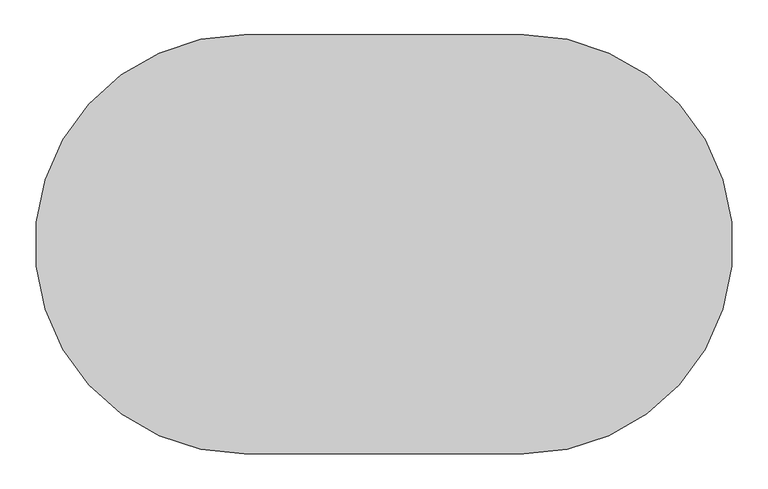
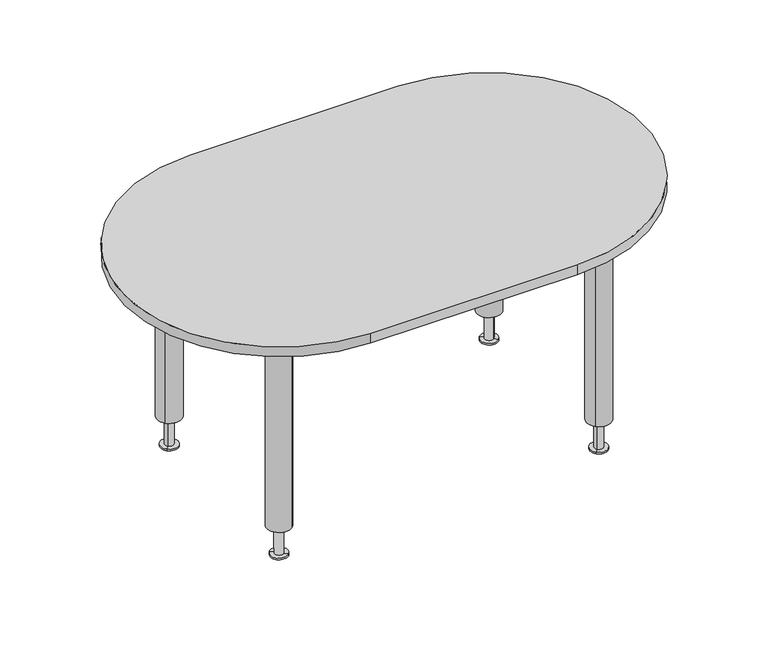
"""IFC4 building model written with IfcOpenShell, lengths in millimetres: furniture geometry, Haworth_JiveTable_RacetrackLegs : 36d 60w 29h - Post Round Base - With Glides."""

import ifcopenshell
import ifcopenshell.guid

model = None  # the IFC model being written
_history = None  # IfcOwnerHistory: only IFC2X3 demands one
_inside = {}  # id of a spatial element -> (the spatial element, [elements in it])
_under = {}  # id of a project, library or spatial element -> (it, [spatial elements below it])
_declared = {}  # id of a project -> (the project, [libraries it declares])
_typed = {}  # id of a type object -> (the type object, [elements of that type])
_made_of = {}  # id of a material, layer set ... -> (it, [elements and type objects made of it])


def new_model(schema):
    """Start an empty IFC model of exactly this schema.

    Asked for "IFC4X3", IfcOpenShell would pick the latest addendum, in which some entities
    have other attributes; the version numbers below select the first issue.
    IFC2X3 requires an IfcOwnerHistory on every rooted entity: one is made here for all.
    """
    global model, _history
    if schema == "IFC4X3":
        model = ifcopenshell.file(schema_version=(4, 3, 0, 0))
    else:
        model = ifcopenshell.file(schema=schema)
    _inside.clear()
    _under.clear()
    _declared.clear()
    _typed.clear()
    _made_of.clear()
    _history = None
    if model.schema == "IFC2X3":
        org = make("IfcOrganization", Name="unknown")
        user = make(
            "IfcPersonAndOrganization",
            ThePerson=make("IfcPerson", FamilyName="unknown"),
            TheOrganization=org,
        )
        app = make(
            "IfcApplication",
            ApplicationDeveloper=org,
            Version="unknown",
            ApplicationFullName="unknown",
            ApplicationIdentifier="unknown",
        )
        _history = make(
            "IfcOwnerHistory",
            OwningUser=user,
            OwningApplication=app,
            ChangeAction="ADDED",
            CreationDate=0,
        )
    return model


def make(cls, **values):
    """One entity of the class cls with the attributes given. An attribute that is None is left unset."""
    return model.create_entity(
        cls, **{name: value for name, value in values.items() if value is not None}
    )


def rooted(cls, **values):
    """An entity with a GlobalId (a new one), such as an element, a storey or a relation."""
    return make(cls, GlobalId=ifcopenshell.guid.new(), OwnerHistory=_history, **values)


def si_unit(unit_type, name, prefix=None):
    """IfcSIUnit, for example si_unit("LENGTHUNIT", "METRE", prefix="MILLI")."""
    return make("IfcSIUnit", UnitType=unit_type, Prefix=prefix, Name=name)


def assignment(units):
    """IfcUnitAssignment: the units of a project."""
    return None if units is None else make("IfcUnitAssignment", Units=units)


def point(xyz):
    """IfcCartesianPoint."""
    return None if xyz is None else make("IfcCartesianPoint", Coordinates=xyz)


def direction(xyz):
    """IfcDirection."""
    return None if xyz is None else make("IfcDirection", DirectionRatios=xyz)


def frame(location, z_axis=None, x_axis=None):
    """IfcAxis2Placement3D, a coordinate frame: its origin and axes. An axis left out is left unset."""
    return make(
        "IfcAxis2Placement3D",
        Location=point(location),
        Axis=direction(z_axis),
        RefDirection=direction(x_axis),
    )


def frame_2d(location, x_axis=None):
    """IfcAxis2Placement2D, a coordinate frame in the plane: its origin and x axis."""
    return make(
        "IfcAxis2Placement2D", Location=point(location), RefDirection=direction(x_axis)
    )


def origin():
    """The frame at (0, 0, 0) with its axes left unset."""
    return frame((0.0, 0.0, 0.0))


def place(relative_to, where):
    """IfcLocalPlacement: puts the frame where relative to a parent placement (None: the world)."""
    return make(
        "IfcLocalPlacement", PlacementRelTo=relative_to, RelativePlacement=where
    )


def context(
    kind, dimensions, precision=None, world=None, true_north=None, identifier=None
):
    """IfcGeometricRepresentationContext, for example the 3D "Model" context."""
    return make(
        "IfcGeometricRepresentationContext",
        ContextIdentifier=identifier,
        ContextType=kind,
        CoordinateSpaceDimension=dimensions,
        Precision=precision,
        WorldCoordinateSystem=world,
        TrueNorth=true_north,
    )


def project(units=None, contexts=None):
    """IfcProject with its units and contexts."""
    return rooted(
        "IfcProject",
        Name="project",
        RepresentationContexts=contexts,
        UnitsInContext=assignment(units),
    )


def spatial(cls, under=None, at=None, **own):
    """A site, building, storey or space (cls), placed at a placement, below another one or the project."""
    s = rooted(cls, ObjectPlacement=at, **own)
    if under is not None:
        _under.setdefault(under.id(), (under, []))[1].append(s)
    return s


def polyline(points):
    """IfcPolyline through the points."""
    return make("IfcPolyline", Points=[point(p) for p in points])


def circle_curve(where, radius):
    """IfcCircle in the frame where."""
    return make("IfcCircle", Position=where, Radius=radius)


def trimmed(basis, trim1, trim2, sense, master):
    """IfcTrimmedCurve: the piece of a basis curve between two trims."""
    return make(
        "IfcTrimmedCurve",
        BasisCurve=basis,
        Trim1=trim1,
        Trim2=trim2,
        SenseAgreement=sense,
        MasterRepresentation=master,
    )


def segment(curve, same_sense, transition):
    """IfcCompositeCurveSegment."""
    return make(
        "IfcCompositeCurveSegment",
        Transition=transition,
        SameSense=same_sense,
        ParentCurve=curve,
    )


def composite_curve(segments, self_intersect=None):
    """IfcCompositeCurve: segments joined end to end."""
    return make("IfcCompositeCurve", Segments=segments, SelfIntersect=self_intersect)


def outline(outer, holes=None, kind="AREA"):
    """IfcArbitraryClosedProfileDef: a profile drawn as a closed curve; with holes, ...WithVoids."""
    if holes is None:
        return make("IfcArbitraryClosedProfileDef", ProfileType=kind, OuterCurve=outer)
    return make(
        "IfcArbitraryProfileDefWithVoids",
        ProfileType=kind,
        OuterCurve=outer,
        InnerCurves=holes,
    )


def extrude(swept, where, along, depth):
    """IfcExtrudedAreaSolid: the profile swept, set in the frame where, extruded along a direction by depth."""
    return make(
        "IfcExtrudedAreaSolid",
        SweptArea=swept,
        Position=where,
        ExtrudedDirection=direction(along),
        Depth=depth,
    )


def shape(context_of_items, identifier, shape_type, items):
    """IfcShapeRepresentation: the items that make up one representation, for example the "Body"."""
    return make(
        "IfcShapeRepresentation",
        ContextOfItems=context_of_items,
        RepresentationIdentifier=identifier,
        RepresentationType=shape_type,
        Items=items,
    )


def source(mapping_origin, context_of_items, identifier, shape_type, items):
    """IfcRepresentationMap: a shape defined once, which mapped items show again and again."""
    return make(
        "IfcRepresentationMap",
        MappingOrigin=mapping_origin,
        MappedRepresentation=shape(context_of_items, identifier, shape_type, items),
    )


def transform(
    local_origin,
    x_axis=None,
    y_axis=None,
    z_axis=None,
    scale=None,
    scale2=None,
    scale3=None,
    uniform=True,
):
    """IfcCartesianTransformationOperator3D, or its non-uniform kind. x_axis, y_axis, z_axis: its Axis1, 2, 3."""
    if uniform:
        return make(
            "IfcCartesianTransformationOperator3D",
            Axis1=direction(x_axis),
            Axis2=direction(y_axis),
            LocalOrigin=point(local_origin),
            Scale=scale,
            Axis3=direction(z_axis),
        )
    return make(
        "IfcCartesianTransformationOperator3DnonUniform",
        Axis1=direction(x_axis),
        Axis2=direction(y_axis),
        LocalOrigin=point(local_origin),
        Scale=scale,
        Axis3=direction(z_axis),
        Scale2=scale2,
        Scale3=scale3,
    )


def mapped(mapping_source, mapping_target):
    """IfcMappedItem: shows the shape of a source again, moved by a transform."""
    return make(
        "IfcMappedItem", MappingSource=mapping_source, MappingTarget=mapping_target
    )


def made_of(thing, what):
    """Note that an element or type object is made of a material, layer set ...; save() writes the relation."""
    if what is not None:
        _made_of.setdefault(what.id(), (what, []))[1].append(thing)
    return thing


def element(
    cls,
    number,
    at=None,
    inside=None,
    cuts=None,
    type_object=None,
    material=None,
    context=None,
    identifier="Body",
    shape_type=None,
    held_by="IfcProductDefinitionShape",
    body=None,
    shapes=None,
    **own,
):
    """One element of the class cls, such as IfcWall. Its Tag is "e" and its number.

    at: its placement. inside: the storey or other place that contains it. cuts: it is an
    opening in that element (IfcRelVoidsElement). A single representation is given by context,
    identifier, shape_type and body (its items); several are given by shapes. held_by: the class
    of the entity that holds the representations. save() writes the other relations.
    """
    e = rooted(cls, Tag="e%d" % number, ObjectPlacement=at, **own)
    if body is not None:
        shapes = [shape(context, identifier, shape_type, body)]
    if shapes is not None:
        e.Representation = make(held_by, Representations=shapes)
    if inside is not None:
        _inside.setdefault(inside.id(), (inside, []))[1].append(e)
    if cuts is not None:
        rooted(
            "IfcRelVoidsElement", RelatingBuildingElement=cuts, RelatedOpeningElement=e
        )
    if type_object is not None:
        _typed.setdefault(type_object.id(), (type_object, []))[1].append(e)
    return made_of(e, material)


def aggregate(whole, parts):
    """IfcRelAggregates: a whole, such as a stair, and the parts it consists of."""
    return rooted("IfcRelAggregates", RelatingObject=whole, RelatedObjects=parts)


def save(model, path):
    """Write the relations noted so far, then the file.

    IfcRelAggregates (storeys below a building ...), IfcRelContainedInSpatialStructure (elements
    in a storey), IfcRelDefinesByType, IfcRelAssociatesMaterial and IfcRelDeclares: one each for
    every whole, place, type object, material and project.
    """
    for whole, parts in _under.values():
        aggregate(whole, parts)
    for where, things in _inside.values():
        rooted(
            "IfcRelContainedInSpatialStructure",
            RelatedElements=things,
            RelatingStructure=where,
        )
    for kind, things in _typed.values():
        rooted("IfcRelDefinesByType", RelatedObjects=things, RelatingType=kind)
    for what, things in _made_of.values():
        rooted("IfcRelAssociatesMaterial", RelatedObjects=things, RelatingMaterial=what)
    for by, libraries in _declared.values():
        rooted("IfcRelDeclares", RelatingContext=by, RelatedDefinitions=libraries)
    model.write(path)


def plane_surface(at):
    """IfcPlane: the flat surface through the origin of the frame at, square to its z axis."""
    return make("IfcPlane", Position=at)


def cylinder_surface(at, radius):
    """IfcCylindricalSurface: all points at the distance radius from the z axis of the frame at."""
    return make("IfcCylindricalSurface", Position=at, Radius=radius)


def advanced_brep(points, edges, surfaces, faces):
    """IfcAdvancedBrep: a solid bounded by faces that lie on surfaces and meet in shared edges.

    An edge is (start, end): straight between two places in points (the first is 0);
    or (start, end, curve); or (start, end, curve, False) where it runs against its curve.
    A face is (place in surfaces, loops), or (place, loops, False) where it looks against
    its surface's normal. A loop lists edges by number (the first is 1), with a minus sign
    where the edge is run from its end to its start. The first loop is the outer one.
    """
    corners = [point(p) for p in points]
    vertices = [make("IfcVertexPoint", VertexGeometry=c) for c in corners]
    made = []
    for start, end, *more in edges:
        made.append(
            make(
                "IfcEdgeCurve",
                EdgeStart=vertices[start],
                EdgeEnd=vertices[end],
                EdgeGeometry=more[0] if more else make("IfcPolyline", Points=[corners[start], corners[end]]),
                SameSense=more[1] if len(more) > 1 else True,
            )
        )
    hull = []
    for where, loops, *sense in faces:
        bounds = []
        for j, loop in enumerate(loops):
            ring = [make("IfcOrientedEdge", EdgeElement=made[abs(k) - 1], Orientation=k > 0) for k in loop]
            bounds.append(
                make(
                    "IfcFaceOuterBound" if j == 0 else "IfcFaceBound",
                    Bound=make("IfcEdgeLoop", EdgeList=ring),
                    Orientation=True,
                )
            )
        hull.append(make("IfcAdvancedFace", Bounds=bounds, FaceSurface=surfaces[where], SameSense=sense[0] if sense else True))
    return make("IfcAdvancedBrep", Outer=make("IfcClosedShell", CfsFaces=hull))


def furniture_38547229(model_context):
    return source(origin(), model_context, "Body", "SolidModel", [
        extrude(outline(composite_curve([segment(trimmed(circle_curve(frame_2d((-511.7197439, 321.2197439)), 8.9802561), [point((-520.7, 321.2197439))], [point((-511.7197439, 330.2))], False, "CARTESIAN"), True, "CONTINUOUS"), segment(polyline([(-511.7197439, 330.2), (-428.0802561, 330.2)]), True, "CONTINUOUS"), segment(trimmed(circle_curve(frame_2d((-428.0802561, 321.2197439)), 8.9802561), [point((-428.0802561, 330.2))], [point((-419.1, 321.2197439))], False, "CARTESIAN"), True, "CONTINUOUS"), segment(polyline([(-419.1, 321.2197439), (-419.1, 237.5802561)]), True, "CONTINUOUS"), segment(trimmed(circle_curve(frame_2d((-428.0802561, 237.5802561)), 8.9802561), [point((-419.1, 237.5802561))], [point((-428.0802561, 228.6))], False, "CARTESIAN"), True, "CONTINUOUS"), segment(polyline([(-428.0802561, 228.6), (-511.7197439, 228.6)]), True, "CONTINUOUS"), segment(trimmed(circle_curve(frame_2d((-511.7197439, 237.5802561)), 8.9802561), [point((-511.7197439, 228.6))], [point((-520.7, 237.5802561))], False, "CARTESIAN"), True, "CONTINUOUS"), segment(polyline([(-520.7, 237.5802561), (-520.7, 321.2197439)]), True, "CONTINUOUS")], self_intersect=False)), frame((0.0, 0.0, 700.0875), z_axis=(0.0, 0.0, 1.0), x_axis=(1.0, 0.0, 0.0)), (0.0, 0.0, 1.0), 6.35),
        extrude(outline(composite_curve([segment(trimmed(circle_curve(frame_2d((-470.134324, 279.634324)), 35.56), [point((-444.9896069, 304.7790412))], [point((-495.2790412, 254.4896069))], False, "CARTESIAN"), True, "CONTINUOUS"), segment(trimmed(circle_curve(frame_2d((-470.134324, 279.634324)), 35.56), [point((-495.2790412, 254.4896069))], [point((-444.9896069, 304.7790412))], False, "CARTESIAN"), True, "CONTINUOUS")], self_intersect=False)), frame((0.0, 0.0, 92.075), z_axis=(0.0, 0.0, 1.0), x_axis=(1.0, 0.0, 0.0)), (0.0, 0.0, 1.0), 608.0125),
        advanced_brep(
        [(-478.9414411, 270.3585589, 92.075), (-469.961185, 279.338815, 92.075), (-460.9809289, 288.3190711, 92.075), (-469.961185, 279.338815, 0.0), (-487.9216972, 261.3783028, 0.0), (-452.0006728, 297.2993272, 0.0), (-487.9216972, 261.3783028, 4.7625), (-452.0006728, 297.2993272, 4.7625), (-478.9414411, 270.3585589, 4.7625), (-460.9809289, 288.3190711, 4.7625)],
        [
            (0, 1),
            (1, 2),
            (2, 0, circle_curve(frame((-469.961185, 279.338815, 92.075), z_axis=(0.0, 0.0, 1.0), x_axis=(0.7071067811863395, 0.7071067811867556, 0.0)), 12.7)),
            (0, 2, circle_curve(frame((-469.961185, 279.338815, 92.075), z_axis=(0.0, 0.0, 1.0), x_axis=(0.7071067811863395, 0.7071067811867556, 0.0)), 12.7)),
            (3, 4),
            (4, 5, circle_curve(frame((-469.961185, 279.338815, 0.0), z_axis=(0.0, 0.0, -1.0), x_axis=(0.7071067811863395, 0.7071067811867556, 0.0)), 25.4)),
            (5, 3),
            (5, 4, circle_curve(frame((-469.961185, 279.338815, 0.0), z_axis=(0.0, 0.0, -1.0), x_axis=(0.7071067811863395, 0.7071067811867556, 0.0)), 25.4)),
            (4, 6),
            (6, 7, circle_curve(frame((-469.961185, 279.338815, 4.7625), z_axis=(0.0, 0.0, -1.0), x_axis=(0.7071067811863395, 0.7071067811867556, 0.0)), 25.4)),
            (7, 5),
            (7, 6, circle_curve(frame((-469.961185, 279.338815, 4.7625), z_axis=(0.0, 0.0, -1.0), x_axis=(0.7071067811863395, 0.7071067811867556, 0.0)), 25.4)),
            (6, 8),
            (8, 9, circle_curve(frame((-469.961185, 279.338815, 4.7625), z_axis=(0.0, 0.0, -1.0), x_axis=(0.7071067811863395, 0.7071067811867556, 0.0)), 12.7)),
            (9, 7),
            (9, 8, circle_curve(frame((-469.961185, 279.338815, 4.7625), z_axis=(0.0, 0.0, -1.0), x_axis=(0.7071067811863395, 0.7071067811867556, 0.0)), 12.7)),
            (8, 0),
            (2, 9),
        ],
        [
            plane_surface(frame((-469.961185, 279.338815, 92.075), z_axis=(0.0, 0.0, 1.0000000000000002), x_axis=(0.7071067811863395, 0.7071067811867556, 0.0))),
            plane_surface(frame((-469.961185, 279.338815, 0.0), z_axis=(0.0, 0.0, -1.0000000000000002), x_axis=(0.7071067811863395, 0.7071067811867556, 0.0))),
            cylinder_surface(frame((-469.961185, 279.338815, 106.1427212), z_axis=(0.0, 0.0, -1.0), x_axis=(0.7071067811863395, 0.7071067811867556, 0.0)), 25.4),
            plane_surface(frame((-469.961185, 279.338815, 4.7625), z_axis=(0.0, 0.0, 1.0000000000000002), x_axis=(0.7071067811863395, 0.7071067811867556, 0.0))),
            cylinder_surface(frame((-469.961185, 279.338815, 106.1427212), z_axis=(0.0, 0.0, -1.0), x_axis=(0.7071067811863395, 0.7071067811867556, 0.0)), 12.7),
        ],
        [
            (0, [[1, 2, 3]]),
            (0, [[-2, -1, 4]]),
            (1, [[5, 6, 7]]),
            (1, [[-7, 8, -5]]),
            (2, [[9, 10, 11, -6]]),
            (2, [[-11, 12, -9, -8]]),
            (3, [[13, 14, 15, -10]]),
            (3, [[-15, 16, -13, -12]]),
            (4, [[17, -3, 18, -14]]),
            (4, [[-18, -4, -17, -16]]),
        ],
    ),
        extrude(outline(composite_curve([segment(polyline([(-520.7, -321.2197439), (-520.7, -237.5802561)]), True, "CONTINUOUS"), segment(trimmed(circle_curve(frame_2d((-511.7197439, -237.5802561)), 8.9802561), [point((-520.7, -237.5802561))], [point((-511.7197439, -228.6))], False, "CARTESIAN"), True, "CONTINUOUS"), segment(polyline([(-511.7197439, -228.6), (-428.0802561, -228.6)]), True, "CONTINUOUS"), segment(trimmed(circle_curve(frame_2d((-428.0802561, -237.5802561)), 8.9802561), [point((-428.0802561, -228.6))], [point((-419.1, -237.5802561))], False, "CARTESIAN"), True, "CONTINUOUS"), segment(polyline([(-419.1, -237.5802561), (-419.1, -321.2197439)]), True, "CONTINUOUS"), segment(trimmed(circle_curve(frame_2d((-428.0802561, -321.2197439)), 8.9802561), [point((-419.1, -321.2197439))], [point((-428.0802561, -330.2))], False, "CARTESIAN"), True, "CONTINUOUS"), segment(polyline([(-428.0802561, -330.2), (-511.7197439, -330.2)]), True, "CONTINUOUS"), segment(trimmed(circle_curve(frame_2d((-511.7197439, -321.2197439)), 8.9802561), [point((-511.7197439, -330.2))], [point((-520.7, -321.2197439))], False, "CARTESIAN"), True, "CONTINUOUS")], self_intersect=False)), frame((0.0, 0.0, 700.0875), z_axis=(0.0, 0.0, 1.0), x_axis=(1.0, 0.0, 0.0)), (0.0, 0.0, 1.0), 6.35),
        extrude(outline(composite_curve([segment(trimmed(circle_curve(frame_2d((-470.134324, -279.634324)), 35.56), [point((-444.9896069, -304.7790412))], [point((-495.2790412, -254.4896069))], False, "CARTESIAN"), True, "CONTINUOUS"), segment(trimmed(circle_curve(frame_2d((-470.134324, -279.634324)), 35.56), [point((-495.2790412, -254.4896069))], [point((-444.9896069, -304.7790412))], False, "CARTESIAN"), True, "CONTINUOUS")], self_intersect=False)), frame((0.0, 0.0, 92.075), z_axis=(0.0, 0.0, 1.0), x_axis=(1.0, 0.0, 0.0)), (0.0, 0.0, 1.0), 608.0125),
        advanced_brep(
        [(-478.9414411, -270.3585589, 92.075), (-460.9809289, -288.3190711, 92.075), (-469.961185, -279.338815, 92.075), (-469.961185, -279.338815, 0.0), (-452.0006728, -297.2993272, 0.0), (-487.9216972, -261.3783028, 0.0), (-452.0006728, -297.2993272, 4.7625), (-487.9216972, -261.3783028, 4.7625), (-460.9809289, -288.3190711, 4.7625), (-478.9414411, -270.3585589, 4.7625)],
        [
            (0, 1, circle_curve(frame((-469.961185, -279.338815, 92.075), z_axis=(0.0, 0.0, 1.0), x_axis=(0.7071067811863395, -0.7071067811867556, 0.0)), 12.7)),
            (1, 2),
            (2, 0),
            (1, 0, circle_curve(frame((-469.961185, -279.338815, 92.075), z_axis=(0.0, 0.0, 1.0), x_axis=(0.7071067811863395, -0.7071067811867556, 0.0)), 12.7)),
            (3, 4),
            (4, 5, circle_curve(frame((-469.961185, -279.338815, 0.0), z_axis=(0.0, 0.0, -1.0), x_axis=(0.7071067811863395, -0.7071067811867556, 0.0)), 25.4)),
            (5, 3),
            (5, 4, circle_curve(frame((-469.961185, -279.338815, 0.0), z_axis=(0.0, 0.0, -1.0), x_axis=(0.7071067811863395, -0.7071067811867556, 0.0)), 25.4)),
            (4, 6),
            (6, 7, circle_curve(frame((-469.961185, -279.338815, 4.7625), z_axis=(0.0, 0.0, -1.0), x_axis=(0.7071067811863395, -0.7071067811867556, 0.0)), 25.4)),
            (7, 5),
            (7, 6, circle_curve(frame((-469.961185, -279.338815, 4.7625), z_axis=(0.0, 0.0, -1.0), x_axis=(0.7071067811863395, -0.7071067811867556, 0.0)), 25.4)),
            (6, 8),
            (8, 9, circle_curve(frame((-469.961185, -279.338815, 4.7625), z_axis=(0.0, 0.0, -1.0), x_axis=(0.7071067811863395, -0.7071067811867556, 0.0)), 12.7)),
            (9, 7),
            (9, 8, circle_curve(frame((-469.961185, -279.338815, 4.7625), z_axis=(0.0, 0.0, -1.0), x_axis=(0.7071067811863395, -0.7071067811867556, 0.0)), 12.7)),
            (8, 1),
            (0, 9),
        ],
        [
            plane_surface(frame((-469.961185, -279.338815, 92.075), z_axis=(0.0, 0.0, 1.0000000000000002), x_axis=(0.7071067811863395, -0.7071067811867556, 0.0))),
            plane_surface(frame((-469.961185, -279.338815, 0.0), z_axis=(0.0, 0.0, -1.0000000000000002), x_axis=(0.7071067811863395, -0.7071067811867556, 0.0))),
            cylinder_surface(frame((-469.961185, -279.338815, 106.1427212), z_axis=(0.0, 0.0, -1.0), x_axis=(0.7071067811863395, -0.7071067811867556, 0.0)), 25.4),
            plane_surface(frame((-469.961185, -279.338815, 4.7625), z_axis=(0.0, 0.0, 1.0000000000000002), x_axis=(0.7071067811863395, -0.7071067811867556, 0.0))),
            cylinder_surface(frame((-469.961185, -279.338815, 106.1427212), z_axis=(0.0, 0.0, -1.0), x_axis=(0.7071067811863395, -0.7071067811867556, 0.0)), 12.7),
        ],
        [
            (0, [[1, 2, 3]]),
            (0, [[4, -3, -2]]),
            (1, [[5, 6, 7]]),
            (1, [[-7, 8, -5]]),
            (2, [[-6, 9, 10, 11]]),
            (2, [[-8, -11, 12, -9]]),
            (3, [[-10, 13, 14, 15]]),
            (3, [[-12, -15, 16, -13]]),
            (4, [[-14, 17, -1, 18]]),
            (4, [[-16, -18, -4, -17]]),
        ],
    ),
        extrude(outline(composite_curve([segment(polyline([(520.7, 321.2197439), (520.7, 237.5802561)]), True, "CONTINUOUS"), segment(trimmed(circle_curve(frame_2d((511.7197439, 237.5802561)), 8.9802561), [point((520.7, 237.5802561))], [point((511.7197439, 228.6))], False, "CARTESIAN"), True, "CONTINUOUS"), segment(polyline([(511.7197439, 228.6), (428.0802561, 228.6)]), True, "CONTINUOUS"), segment(trimmed(circle_curve(frame_2d((428.0802561, 237.5802561)), 8.9802561), [point((428.0802561, 228.6))], [point((419.1, 237.5802561))], False, "CARTESIAN"), True, "CONTINUOUS"), segment(polyline([(419.1, 237.5802561), (419.1, 321.2197439)]), True, "CONTINUOUS"), segment(trimmed(circle_curve(frame_2d((428.0802561, 321.2197439)), 8.9802561), [point((419.1, 321.2197439))], [point((428.0802561, 330.2))], False, "CARTESIAN"), True, "CONTINUOUS"), segment(polyline([(428.0802561, 330.2), (511.7197439, 330.2)]), True, "CONTINUOUS"), segment(trimmed(circle_curve(frame_2d((511.7197439, 321.2197439)), 8.9802561), [point((511.7197439, 330.2))], [point((520.7, 321.2197439))], False, "CARTESIAN"), True, "CONTINUOUS")], self_intersect=False)), frame((0.0, 0.0, 700.0875), z_axis=(0.0, 0.0, 1.0), x_axis=(1.0, 0.0, 0.0)), (0.0, 0.0, 1.0), 6.35),
        extrude(outline(composite_curve([segment(trimmed(circle_curve(frame_2d((470.134324, 279.634324)), 35.56), [point((444.9896069, 304.7790412))], [point((495.2790412, 254.4896069))], False, "CARTESIAN"), True, "CONTINUOUS"), segment(trimmed(circle_curve(frame_2d((470.134324, 279.634324)), 35.56), [point((495.2790412, 254.4896069))], [point((444.9896069, 304.7790412))], False, "CARTESIAN"), True, "CONTINUOUS")], self_intersect=False)), frame((0.0, 0.0, 92.075), z_axis=(0.0, 0.0, 1.0), x_axis=(1.0, 0.0, 0.0)), (0.0, 0.0, 1.0), 608.0125),
        advanced_brep(
        [(478.9414411, 270.3585589, 92.075), (460.9809289, 288.3190711, 92.075), (469.961185, 279.338815, 92.075), (469.961185, 279.338815, 0.0), (452.0006728, 297.2993272, 0.0), (487.9216972, 261.3783028, 0.0), (452.0006728, 297.2993272, 4.7625), (487.9216972, 261.3783028, 4.7625), (460.9809289, 288.3190711, 4.7625), (478.9414411, 270.3585589, 4.7625)],
        [
            (0, 1, circle_curve(frame((469.961185, 279.338815, 92.075), z_axis=(0.0, 0.0, 1.0), x_axis=(-0.7071067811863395, 0.7071067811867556, 0.0)), 12.7)),
            (1, 2),
            (2, 0),
            (1, 0, circle_curve(frame((469.961185, 279.338815, 92.075), z_axis=(0.0, 0.0, 1.0), x_axis=(-0.7071067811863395, 0.7071067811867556, 0.0)), 12.7)),
            (3, 4),
            (4, 5, circle_curve(frame((469.961185, 279.338815, 0.0), z_axis=(0.0, 0.0, -1.0), x_axis=(-0.7071067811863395, 0.7071067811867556, 0.0)), 25.4)),
            (5, 3),
            (5, 4, circle_curve(frame((469.961185, 279.338815, 0.0), z_axis=(0.0, 0.0, -1.0), x_axis=(-0.7071067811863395, 0.7071067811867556, 0.0)), 25.4)),
            (4, 6),
            (6, 7, circle_curve(frame((469.961185, 279.338815, 4.7625), z_axis=(0.0, 0.0, -1.0), x_axis=(-0.7071067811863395, 0.7071067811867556, 0.0)), 25.4)),
            (7, 5),
            (7, 6, circle_curve(frame((469.961185, 279.338815, 4.7625), z_axis=(0.0, 0.0, -1.0), x_axis=(-0.7071067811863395, 0.7071067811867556, 0.0)), 25.4)),
            (6, 8),
            (8, 9, circle_curve(frame((469.961185, 279.338815, 4.7625), z_axis=(0.0, 0.0, -1.0), x_axis=(-0.7071067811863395, 0.7071067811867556, 0.0)), 12.7)),
            (9, 7),
            (9, 8, circle_curve(frame((469.961185, 279.338815, 4.7625), z_axis=(0.0, 0.0, -1.0), x_axis=(-0.7071067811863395, 0.7071067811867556, 0.0)), 12.7)),
            (8, 1),
            (0, 9),
        ],
        [
            plane_surface(frame((469.961185, 279.338815, 92.075), z_axis=(0.0, 0.0, 1.0000000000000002), x_axis=(-0.7071067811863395, 0.7071067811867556, 0.0))),
            plane_surface(frame((469.961185, 279.338815, 0.0), z_axis=(0.0, 0.0, -1.0000000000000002), x_axis=(-0.7071067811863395, 0.7071067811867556, 0.0))),
            cylinder_surface(frame((469.961185, 279.338815, 106.1427212), z_axis=(0.0, 0.0, -1.0), x_axis=(-0.7071067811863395, 0.7071067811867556, 0.0)), 25.4),
            plane_surface(frame((469.961185, 279.338815, 4.7625), z_axis=(0.0, 0.0, 1.0000000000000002), x_axis=(-0.7071067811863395, 0.7071067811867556, 0.0))),
            cylinder_surface(frame((469.961185, 279.338815, 106.1427212), z_axis=(0.0, 0.0, -1.0), x_axis=(-0.7071067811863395, 0.7071067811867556, 0.0)), 12.7),
        ],
        [
            (0, [[1, 2, 3]]),
            (0, [[4, -3, -2]]),
            (1, [[5, 6, 7]]),
            (1, [[-7, 8, -5]]),
            (2, [[-6, 9, 10, 11]]),
            (2, [[-8, -11, 12, -9]]),
            (3, [[-10, 13, 14, 15]]),
            (3, [[-12, -15, 16, -13]]),
            (4, [[-14, 17, -1, 18]]),
            (4, [[-16, -18, -4, -17]]),
        ],
    ),
        extrude(outline(composite_curve([segment(trimmed(circle_curve(frame_2d((511.7197439, -321.2197439)), 8.9802561), [point((520.7, -321.2197439))], [point((511.7197439, -330.2))], False, "CARTESIAN"), True, "CONTINUOUS"), segment(polyline([(511.7197439, -330.2), (428.0802561, -330.2)]), True, "CONTINUOUS"), segment(trimmed(circle_curve(frame_2d((428.0802561, -321.2197439)), 8.9802561), [point((428.0802561, -330.2))], [point((419.1, -321.2197439))], False, "CARTESIAN"), True, "CONTINUOUS"), segment(polyline([(419.1, -321.2197439), (419.1, -237.5802561)]), True, "CONTINUOUS"), segment(trimmed(circle_curve(frame_2d((428.0802561, -237.5802561)), 8.9802561), [point((419.1, -237.5802561))], [point((428.0802561, -228.6))], False, "CARTESIAN"), True, "CONTINUOUS"), segment(polyline([(428.0802561, -228.6), (511.7197439, -228.6)]), True, "CONTINUOUS"), segment(trimmed(circle_curve(frame_2d((511.7197439, -237.5802561)), 8.9802561), [point((511.7197439, -228.6))], [point((520.7, -237.5802561))], False, "CARTESIAN"), True, "CONTINUOUS"), segment(polyline([(520.7, -237.5802561), (520.7, -321.2197439)]), True, "CONTINUOUS")], self_intersect=False)), frame((0.0, 0.0, 700.0875), z_axis=(0.0, 0.0, 1.0), x_axis=(1.0, 0.0, 0.0)), (0.0, 0.0, 1.0), 6.35),
        extrude(outline(composite_curve([segment(trimmed(circle_curve(frame_2d((470.134324, -279.634324)), 35.56), [point((444.9896069, -304.7790412))], [point((495.2790412, -254.4896069))], False, "CARTESIAN"), True, "CONTINUOUS"), segment(trimmed(circle_curve(frame_2d((470.134324, -279.634324)), 35.56), [point((495.2790412, -254.4896069))], [point((444.9896069, -304.7790412))], False, "CARTESIAN"), True, "CONTINUOUS")], self_intersect=False)), frame((0.0, 0.0, 92.075), z_axis=(0.0, 0.0, 1.0), x_axis=(1.0, 0.0, 0.0)), (0.0, 0.0, 1.0), 608.0125),
        advanced_brep(
        [(478.9414411, -270.3585589, 92.075), (469.961185, -279.338815, 92.075), (460.9809289, -288.3190711, 92.075), (469.961185, -279.338815, 0.0), (487.9216972, -261.3783028, 0.0), (452.0006728, -297.2993272, 0.0), (487.9216972, -261.3783028, 4.7625), (452.0006728, -297.2993272, 4.7625), (478.9414411, -270.3585589, 4.7625), (460.9809289, -288.3190711, 4.7625)],
        [
            (0, 1),
            (1, 2),
            (2, 0, circle_curve(frame((469.961185, -279.338815, 92.075), z_axis=(0.0, 0.0, 1.0), x_axis=(-0.7071067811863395, -0.7071067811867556, 0.0)), 12.7)),
            (0, 2, circle_curve(frame((469.961185, -279.338815, 92.075), z_axis=(0.0, 0.0, 1.0), x_axis=(-0.7071067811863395, -0.7071067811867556, 0.0)), 12.7)),
            (3, 4),
            (4, 5, circle_curve(frame((469.961185, -279.338815, 0.0), z_axis=(0.0, 0.0, -1.0), x_axis=(-0.7071067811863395, -0.7071067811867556, 0.0)), 25.4)),
            (5, 3),
            (5, 4, circle_curve(frame((469.961185, -279.338815, 0.0), z_axis=(0.0, 0.0, -1.0), x_axis=(-0.7071067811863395, -0.7071067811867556, 0.0)), 25.4)),
            (4, 6),
            (6, 7, circle_curve(frame((469.961185, -279.338815, 4.7625), z_axis=(0.0, 0.0, -1.0), x_axis=(-0.7071067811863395, -0.7071067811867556, 0.0)), 25.4)),
            (7, 5),
            (7, 6, circle_curve(frame((469.961185, -279.338815, 4.7625), z_axis=(0.0, 0.0, -1.0), x_axis=(-0.7071067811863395, -0.7071067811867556, 0.0)), 25.4)),
            (6, 8),
            (8, 9, circle_curve(frame((469.961185, -279.338815, 4.7625), z_axis=(0.0, 0.0, -1.0), x_axis=(-0.7071067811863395, -0.7071067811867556, 0.0)), 12.7)),
            (9, 7),
            (9, 8, circle_curve(frame((469.961185, -279.338815, 4.7625), z_axis=(0.0, 0.0, -1.0), x_axis=(-0.7071067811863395, -0.7071067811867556, 0.0)), 12.7)),
            (8, 0),
            (2, 9),
        ],
        [
            plane_surface(frame((469.961185, -279.338815, 92.075), z_axis=(0.0, 0.0, 1.0000000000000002), x_axis=(-0.7071067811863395, -0.7071067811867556, 0.0))),
            plane_surface(frame((469.961185, -279.338815, 0.0), z_axis=(0.0, 0.0, -1.0000000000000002), x_axis=(-0.7071067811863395, -0.7071067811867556, 0.0))),
            cylinder_surface(frame((469.961185, -279.338815, 106.1427212), z_axis=(0.0, 0.0, -1.0), x_axis=(-0.7071067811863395, -0.7071067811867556, 0.0)), 25.4),
            plane_surface(frame((469.961185, -279.338815, 4.7625), z_axis=(0.0, 0.0, 1.0000000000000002), x_axis=(-0.7071067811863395, -0.7071067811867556, 0.0))),
            cylinder_surface(frame((469.961185, -279.338815, 106.1427212), z_axis=(0.0, 0.0, -1.0), x_axis=(-0.7071067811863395, -0.7071067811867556, 0.0)), 12.7),
        ],
        [
            (0, [[1, 2, 3]]),
            (0, [[-2, -1, 4]]),
            (1, [[5, 6, 7]]),
            (1, [[-7, 8, -5]]),
            (2, [[9, 10, 11, -6]]),
            (2, [[-11, 12, -9, -8]]),
            (3, [[13, 14, 15, -10]]),
            (3, [[-15, 16, -13, -12]]),
            (4, [[17, -3, 18, -14]]),
            (4, [[-18, -4, -17, -16]]),
        ],
    ),
        extrude(outline(composite_curve([segment(polyline([(304.8, -457.2), (-304.8, -457.2)]), True, "CONTINUOUS"), segment(trimmed(circle_curve(frame_2d((-304.8, 0.0)), 457.2), [point((-304.8, -457.2))], [point((-304.8, 457.2))], False, "CARTESIAN"), True, "CONTINUOUS"), segment(polyline([(-304.8, 457.2), (304.8, 457.2)]), True, "CONTINUOUS"), segment(trimmed(circle_curve(frame_2d((304.8, 0.0)), 457.2), [point((304.8, 457.2))], [point((304.8, -457.2))], False, "CARTESIAN"), True, "CONTINUOUS")], self_intersect=False)), frame((0.0, 0.0, 706.4375), z_axis=(0.0, 0.0, 1.0), x_axis=(1.0, 0.0, 0.0)), (0.0, 0.0, 1.0), 30.1625),
    ])


if __name__ == "__main__":
    model = new_model("IFC4")
    model_context = context("Model", 3, world=origin())
    ifc_project = project(units=[si_unit("LENGTHUNIT", "METRE", prefix="MILLI")], contexts=[model_context])
    site = spatial("IfcSite", under=ifc_project)
    building = spatial("IfcBuilding", under=site)
    placement = place(None, origin())
    furniture_shape = furniture_38547229(model_context)
    element("IfcFurniture", 1, ObjectType="Haworth_JiveTable_RacetrackLegs : 36d 60w 29h - Post Round Base - With Glides", at=placement, inside=building, context=model_context, shape_type="MappedRepresentation", body=[
        mapped(furniture_shape, transform((0.0, 0.0, 0.0), x_axis=(1.0, 0.0, 0.0), y_axis=(0.0, 1.0, 0.0), z_axis=(0.0, 0.0, 1.0))),
    ])
    save(model, "model.ifc")
